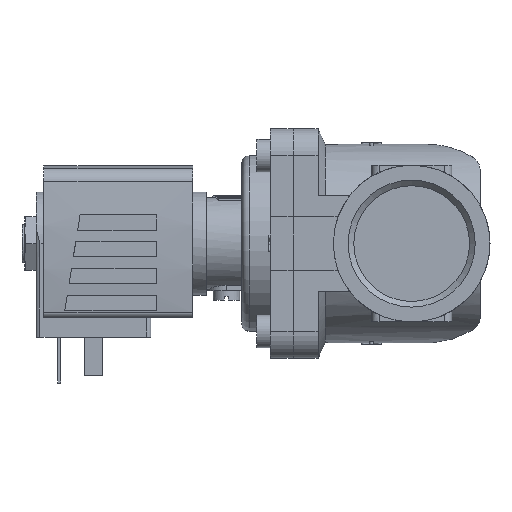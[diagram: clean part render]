
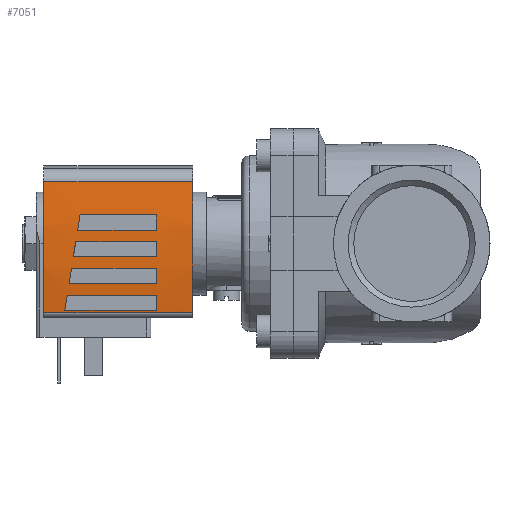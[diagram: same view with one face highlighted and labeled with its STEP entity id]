
A CAD part, left-side view. The second image highlights one B-rep face of the part: STEP entity #7051.
In plain terms, the highlighted cylindrical face has radius 130 mm (diameter 260 mm), a partial arc.
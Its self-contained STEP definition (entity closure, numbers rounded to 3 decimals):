
#90=ELLIPSE('',#7631,131.653,130.);
#91=ELLIPSE('',#7633,131.653,130.);
#92=ELLIPSE('',#7636,131.653,130.);
#93=ELLIPSE('',#7638,131.653,130.);
#792=LINE('',#11063,#1300);
#794=LINE('',#11083,#1302);
#795=LINE('',#11087,#1303);
#796=LINE('',#11088,#1304);
#797=LINE('',#11093,#1305);
#798=LINE('',#11098,#1306);
#799=LINE('',#11102,#1307);
#800=LINE('',#11106,#1308);
#801=LINE('',#11110,#1309);
#802=LINE('',#11114,#1310);
#1300=VECTOR('',#9076,1000.);
#1302=VECTOR('',#9098,1000.);
#1303=VECTOR('',#9101,1000.);
#1304=VECTOR('',#9102,1000.);
#1305=VECTOR('',#9105,1000.);
#1306=VECTOR('',#9110,1000.);
#1307=VECTOR('',#9113,1000.);
#1308=VECTOR('',#9116,1000.);
#1309=VECTOR('',#9119,1000.);
#1310=VECTOR('',#9122,1000.);
#2714=ORIENTED_EDGE('',*,*,#3766,.F.);
#2715=ORIENTED_EDGE('',*,*,#3767,.F.);
#2716=ORIENTED_EDGE('',*,*,#3768,.F.);
#2717=ORIENTED_EDGE('',*,*,#3769,.F.);
#2718=ORIENTED_EDGE('',*,*,#3770,.F.);
#2719=ORIENTED_EDGE('',*,*,#3771,.F.);
#2720=ORIENTED_EDGE('',*,*,#3772,.F.);
#2721=ORIENTED_EDGE('',*,*,#3773,.F.);
#2722=ORIENTED_EDGE('',*,*,#3774,.T.);
#2723=ORIENTED_EDGE('',*,*,#3775,.F.);
#2724=ORIENTED_EDGE('',*,*,#3760,.F.);
#2725=ORIENTED_EDGE('',*,*,#3757,.T.);
#2726=ORIENTED_EDGE('',*,*,#3776,.F.);
#2727=ORIENTED_EDGE('',*,*,#3777,.F.);
#2728=ORIENTED_EDGE('',*,*,#3778,.F.);
#2729=ORIENTED_EDGE('',*,*,#3779,.F.);
#2730=ORIENTED_EDGE('',*,*,#3780,.F.);
#2731=ORIENTED_EDGE('',*,*,#3781,.F.);
#2732=ORIENTED_EDGE('',*,*,#3782,.F.);
#2733=ORIENTED_EDGE('',*,*,#3783,.F.);
#3757=EDGE_CURVE('',#4389,#4388,#792,.T.);
#3760=EDGE_CURVE('',#4389,#4391,#4675,.T.);
#3766=EDGE_CURVE('',#4395,#4396,#90,.T.);
#3767=EDGE_CURVE('',#4397,#4395,#794,.F.);
#3768=EDGE_CURVE('',#4398,#4397,#4680,.T.);
#3769=EDGE_CURVE('',#4396,#4398,#795,.T.);
#3770=EDGE_CURVE('',#4399,#4400,#796,.T.);
#3771=EDGE_CURVE('',#4401,#4399,#91,.T.);
#3772=EDGE_CURVE('',#4402,#4401,#797,.F.);
#3773=EDGE_CURVE('',#4400,#4402,#4681,.T.);
#3774=EDGE_CURVE('',#4388,#4403,#4682,.T.);
#3775=EDGE_CURVE('',#4391,#4403,#798,.T.);
#3776=EDGE_CURVE('',#4404,#4405,#92,.T.);
#3777=EDGE_CURVE('',#4406,#4404,#799,.F.);
#3778=EDGE_CURVE('',#4407,#4406,#4683,.T.);
#3779=EDGE_CURVE('',#4405,#4407,#800,.T.);
#3780=EDGE_CURVE('',#4408,#4409,#93,.T.);
#3781=EDGE_CURVE('',#4410,#4408,#801,.F.);
#3782=EDGE_CURVE('',#4411,#4410,#4684,.T.);
#3783=EDGE_CURVE('',#4409,#4411,#802,.T.);
#4388=VERTEX_POINT('',#11062);
#4389=VERTEX_POINT('',#11064);
#4391=VERTEX_POINT('',#11070);
#4395=VERTEX_POINT('',#11081);
#4396=VERTEX_POINT('',#11082);
#4397=VERTEX_POINT('',#11084);
#4398=VERTEX_POINT('',#11086);
#4399=VERTEX_POINT('',#11089);
#4400=VERTEX_POINT('',#11090);
#4401=VERTEX_POINT('',#11092);
#4402=VERTEX_POINT('',#11094);
#4403=VERTEX_POINT('',#11097);
#4404=VERTEX_POINT('',#11100);
#4405=VERTEX_POINT('',#11101);
#4406=VERTEX_POINT('',#11103);
#4407=VERTEX_POINT('',#11105);
#4408=VERTEX_POINT('',#11108);
#4409=VERTEX_POINT('',#11109);
#4410=VERTEX_POINT('',#11111);
#4411=VERTEX_POINT('',#11113);
#4675=CIRCLE('',#7625,130.);
#4680=CIRCLE('',#7632,130.);
#4681=CIRCLE('',#7634,130.);
#4682=CIRCLE('',#7635,130.);
#4683=CIRCLE('',#7637,130.);
#4684=CIRCLE('',#7639,130.);
#4999=EDGE_LOOP('',(#2714,#2715,#2716,#2717));
#5000=EDGE_LOOP('',(#2718,#2719,#2720,#2721));
#5001=EDGE_LOOP('',(#2722,#2723,#2724,#2725));
#5002=EDGE_LOOP('',(#2726,#2727,#2728,#2729));
#5003=EDGE_LOOP('',(#2730,#2731,#2732,#2733));
#5392=FACE_BOUND('',#4999,.T.);
#5393=FACE_BOUND('',#5000,.T.);
#5394=FACE_BOUND('',#5001,.T.);
#5395=FACE_BOUND('',#5002,.T.);
#5396=FACE_BOUND('',#5003,.T.);
#5567=CYLINDRICAL_SURFACE('',#7630,130.);
#7051=ADVANCED_FACE('',(#5392,#5393,#5394,#5395,#5396),#5567,.T.);
#7625=AXIS2_PLACEMENT_3D('',#11069,#9083,#9084);
#7630=AXIS2_PLACEMENT_3D('',#11079,#9094,#9095);
#7631=AXIS2_PLACEMENT_3D('',#11080,#9096,#9097);
#7632=AXIS2_PLACEMENT_3D('',#11085,#9099,#9100);
#7633=AXIS2_PLACEMENT_3D('',#11091,#9103,#9104);
#7634=AXIS2_PLACEMENT_3D('',#11095,#9106,#9107);
#7635=AXIS2_PLACEMENT_3D('',#11096,#9108,#9109);
#7636=AXIS2_PLACEMENT_3D('',#11099,#9111,#9112);
#7637=AXIS2_PLACEMENT_3D('',#11104,#9114,#9115);
#7638=AXIS2_PLACEMENT_3D('',#11107,#9117,#9118);
#7639=AXIS2_PLACEMENT_3D('',#11112,#9120,#9121);
#9076=DIRECTION('',(0.,-1.,0.));
#9083=DIRECTION('',(0.,1.,0.));
#9084=DIRECTION('',(1.,0.,0.));
#9094=DIRECTION('',(0.,-1.,0.));
#9095=DIRECTION('',(0.,0.,-1.));
#9096=DIRECTION('',(-0.158,-0.987,0.));
#9097=DIRECTION('',(0.987,-0.158,0.));
#9098=DIRECTION('',(0.,-1.,0.));
#9099=DIRECTION('',(0.,1.,0.));
#9100=DIRECTION('',(0.,0.,1.));
#9101=DIRECTION('',(0.,-1.,0.));
#9102=DIRECTION('',(0.,-1.,0.));
#9103=DIRECTION('',(-0.158,-0.987,0.));
#9104=DIRECTION('',(0.987,-0.158,0.));
#9105=DIRECTION('',(0.,-1.,0.));
#9106=DIRECTION('',(0.,1.,0.));
#9107=DIRECTION('',(0.,0.,1.));
#9108=DIRECTION('',(0.,1.,0.));
#9109=DIRECTION('',(1.,0.,0.));
#9110=DIRECTION('',(0.,-1.,0.));
#9111=DIRECTION('',(-0.158,-0.987,0.));
#9112=DIRECTION('',(0.987,-0.158,0.));
#9113=DIRECTION('',(0.,-1.,0.));
#9114=DIRECTION('',(0.,1.,0.));
#9115=DIRECTION('',(0.,0.,1.));
#9116=DIRECTION('',(0.,-1.,0.));
#9117=DIRECTION('',(-0.158,-0.987,0.));
#9118=DIRECTION('',(0.987,-0.158,0.));
#9119=DIRECTION('',(0.,-1.,0.));
#9120=DIRECTION('',(0.,1.,0.));
#9121=DIRECTION('',(0.,0.,1.));
#9122=DIRECTION('',(0.,-1.,0.));
#11062=CARTESIAN_POINT('',(-18.071,-26.,14.738));
#11063=CARTESIAN_POINT('',(-18.071,13.,14.738));
#11064=CARTESIAN_POINT('',(-18.071,13.,14.738));
#11069=CARTESIAN_POINT('',(0.,13.,-114.));
#11070=CARTESIAN_POINT('',(16.195,13.,14.987));
#11079=CARTESIAN_POINT('',(0.,13.,-114.));
#11080=CARTESIAN_POINT('',(0.,4.7,-114.));
#11081=CARTESIAN_POINT('',(0.5,4.62,15.999));
#11082=CARTESIAN_POINT('',(-3.5,5.26,15.953));
#11083=CARTESIAN_POINT('',(0.5,13.,15.999));
#11084=CARTESIAN_POINT('',(0.5,-16.5,15.999));
#11085=CARTESIAN_POINT('',(0.,-16.5,-114.));
#11086=CARTESIAN_POINT('',(-3.5,-16.5,15.953));
#11087=CARTESIAN_POINT('',(-3.5,13.,15.953));
#11088=CARTESIAN_POINT('',(-17.5,13.,14.817));
#11089=CARTESIAN_POINT('',(-17.5,7.5,14.817));
#11090=CARTESIAN_POINT('',(-17.5,-16.5,14.817));
#11091=CARTESIAN_POINT('',(0.,4.7,-114.));
#11092=CARTESIAN_POINT('',(-13.5,6.86,15.297));
#11093=CARTESIAN_POINT('',(-13.5,13.,15.297));
#11094=CARTESIAN_POINT('',(-13.5,-16.5,15.297));
#11095=CARTESIAN_POINT('',(0.,-16.5,-114.));
#11096=CARTESIAN_POINT('',(0.,-26.,-114.));
#11097=CARTESIAN_POINT('',(16.195,-26.,14.987));
#11098=CARTESIAN_POINT('',(16.195,13.,14.987));
#11099=CARTESIAN_POINT('',(0.,4.7,-114.));
#11100=CARTESIAN_POINT('',(-6.5,5.74,15.837));
#11101=CARTESIAN_POINT('',(-10.5,6.38,15.575));
#11102=CARTESIAN_POINT('',(-6.5,13.,15.837));
#11103=CARTESIAN_POINT('',(-6.5,-16.5,15.837));
#11104=CARTESIAN_POINT('',(0.,-16.5,-114.));
#11105=CARTESIAN_POINT('',(-10.5,-16.5,15.575));
#11106=CARTESIAN_POINT('',(-10.5,13.,15.575));
#11107=CARTESIAN_POINT('',(0.,4.7,-114.));
#11108=CARTESIAN_POINT('',(7.5,3.5,15.783));
#11109=CARTESIAN_POINT('',(3.5,4.14,15.953));
#11110=CARTESIAN_POINT('',(7.5,13.,15.783));
#11111=CARTESIAN_POINT('',(7.5,-16.5,15.783));
#11112=CARTESIAN_POINT('',(0.,-16.5,-114.));
#11113=CARTESIAN_POINT('',(3.5,-16.5,15.953));
#11114=CARTESIAN_POINT('',(3.5,13.,15.953));
